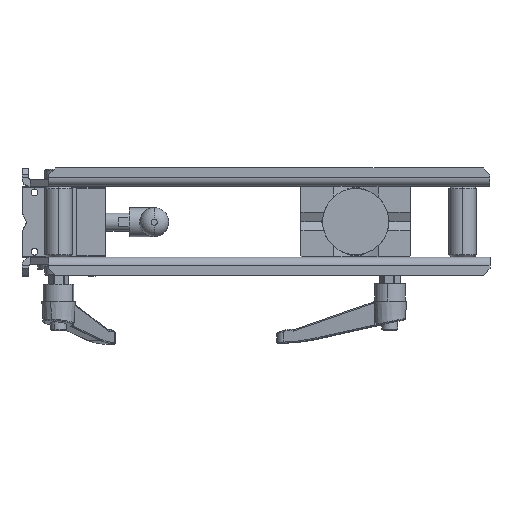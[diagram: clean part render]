
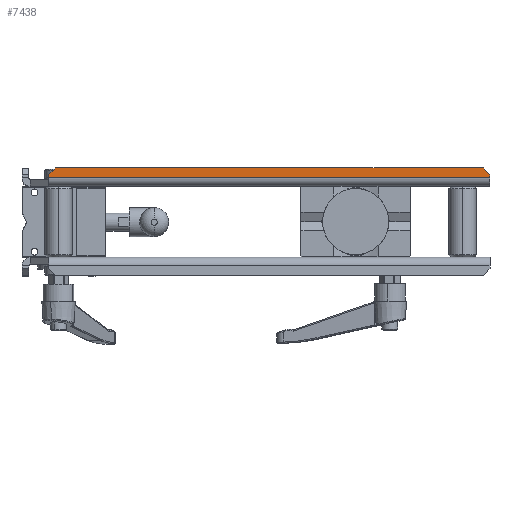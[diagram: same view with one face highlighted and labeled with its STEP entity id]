
A CAD part, top view. The second image highlights one B-rep face of the part: STEP entity #7438.
In plain terms, the highlighted planar face has unit normal (0, 0, 1).
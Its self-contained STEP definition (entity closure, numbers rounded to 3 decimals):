
#24 = EDGE_CURVE ( 'NONE', #14832, #14776, #9781, .T. ) ;
#3628 = CARTESIAN_POINT ( 'NONE',  ( -100.958, -12.858, 102.5 ) ) ;
#3638 = DIRECTION ( 'NONE',  ( -1., 0., 0. ) ) ;
#3722 = CARTESIAN_POINT ( 'NONE',  ( -100.958, -8.558, 102.5 ) ) ;
#3733 = CARTESIAN_POINT ( 'NONE',  ( 89.342, -8.558, 102.5 ) ) ;
#3734 = DIRECTION ( 'NONE',  ( -0.707, 0.707, 0. ) ) ;
#3745 = DIRECTION ( 'NONE',  ( -1., 0., 0. ) ) ;
#7438 = ADVANCED_FACE ( 'NONE', ( #10936 ), #8468, .F. ) ;
#8463 = CARTESIAN_POINT ( 'NONE',  ( -100.958, -8.558, 102.5 ) ) ;
#8468 = PLANE ( 'NONE',  #12688 ) ;
#9042 = EDGE_CURVE ( 'NONE', #14776, #14795, #14972, .T. ) ;
#9043 = EDGE_CURVE ( 'NONE', #14813, #14840, #14974, .T. ) ;
#9237 = CARTESIAN_POINT ( 'NONE',  ( -100.958, -8.558, 102.5 ) ) ;
#9238 = DIRECTION ( 'NONE',  ( 0., -1., 0. ) ) ;
#9241 = CARTESIAN_POINT ( 'NONE',  ( 92.342, -8.558, 102.5 ) ) ;
#9243 = DIRECTION ( 'NONE',  ( 0., 1., 0. ) ) ;
#9781 = LINE ( 'NONE', #14629, #9788 ) ;
#9788 = VECTOR ( 'NONE', #14632, 1000. ) ;
#10936 = FACE_OUTER_BOUND ( 'NONE', #14217, .T. ) ;
#11224 = VECTOR ( 'NONE', #3638, 1000. ) ;
#11230 = LINE ( 'NONE', #3628, #11224 ) ;
#11294 = LINE ( 'NONE', #3722, #11306 ) ;
#11296 = LINE ( 'NONE', #3733, #11297 ) ;
#11297 = VECTOR ( 'NONE', #3734, 1000. ) ;
#11306 = VECTOR ( 'NONE', #3745, 1000. ) ;
#12688 = AXIS2_PLACEMENT_3D ( 'NONE', #8463, #15819, #15820 ) ;
#14217 = EDGE_LOOP ( 'NONE', ( #16502, #16497, #16641, #16642, #16643, #16617 ) ) ;
#14629 = CARTESIAN_POINT ( 'NONE',  ( -100.958, -11.558, 102.5 ) ) ;
#14632 = DIRECTION ( 'NONE',  ( -0.707, -0.707, 0. ) ) ;
#14776 = VERTEX_POINT ( 'NONE', #17703 ) ;
#14795 = VERTEX_POINT ( 'NONE', #17722 ) ;
#14797 = VERTEX_POINT ( 'NONE', #17724 ) ;
#14813 = VERTEX_POINT ( 'NONE', #17740 ) ;
#14832 = VERTEX_POINT ( 'NONE', #17759 ) ;
#14840 = VERTEX_POINT ( 'NONE', #17767 ) ;
#14972 = LINE ( 'NONE', #9237, #14973 ) ;
#14973 = VECTOR ( 'NONE', #9238, 1000. ) ;
#14974 = LINE ( 'NONE', #9241, #14975 ) ;
#14975 = VECTOR ( 'NONE', #9243, 1000. ) ;
#15819 = DIRECTION ( 'NONE',  ( 0., 0., -1. ) ) ;
#15820 = DIRECTION ( 'NONE',  ( -1., 0., 0. ) ) ;
#16497 = ORIENTED_EDGE ( 'NONE', *, *, #25482, .T. ) ;
#16502 = ORIENTED_EDGE ( 'NONE', *, *, #9043, .T. ) ;
#16617 = ORIENTED_EDGE ( 'NONE', *, *, #25411, .F. ) ;
#16641 = ORIENTED_EDGE ( 'NONE', *, *, #25487, .T. ) ;
#16642 = ORIENTED_EDGE ( 'NONE', *, *, #24, .T. ) ;
#16643 = ORIENTED_EDGE ( 'NONE', *, *, #9042, .T. ) ;
#17703 = CARTESIAN_POINT ( 'NONE',  ( -100.958, -11.558, 102.5 ) ) ;
#17722 = CARTESIAN_POINT ( 'NONE',  ( -100.958, -12.858, 102.5 ) ) ;
#17724 = CARTESIAN_POINT ( 'NONE',  ( 89.342, -8.558, 102.5 ) ) ;
#17740 = CARTESIAN_POINT ( 'NONE',  ( 92.342, -12.858, 102.5 ) ) ;
#17759 = CARTESIAN_POINT ( 'NONE',  ( -97.958, -8.558, 102.5 ) ) ;
#17767 = CARTESIAN_POINT ( 'NONE',  ( 92.342, -11.558, 102.5 ) ) ;
#25411 = EDGE_CURVE ( 'NONE', #14813, #14795, #11230, .T. ) ;
#25482 = EDGE_CURVE ( 'NONE', #14840, #14797, #11296, .T. ) ;
#25487 = EDGE_CURVE ( 'NONE', #14797, #14832, #11294, .T. ) ;
